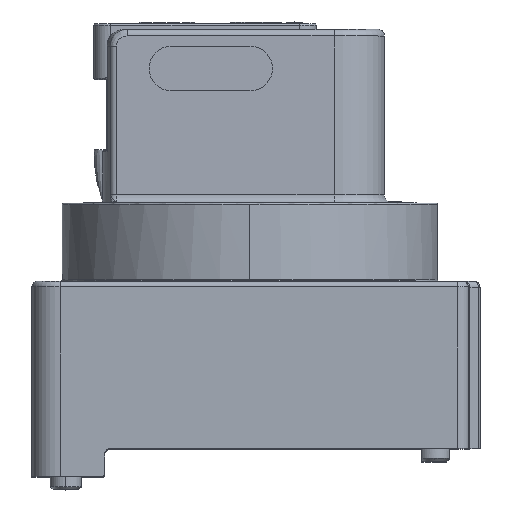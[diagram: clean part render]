
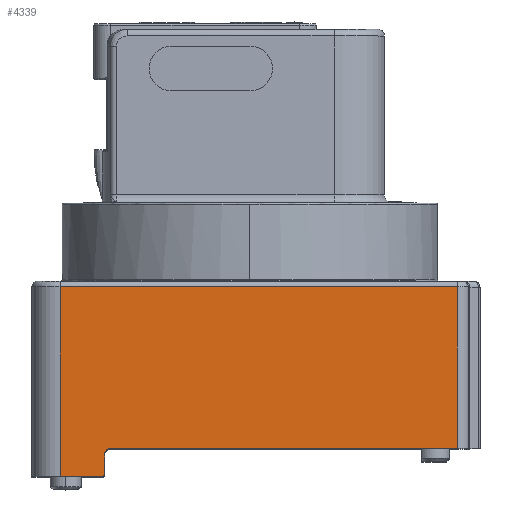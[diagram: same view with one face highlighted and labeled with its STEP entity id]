
A CAD part, top view. The second image highlights one B-rep face of the part: STEP entity #4339.
In plain terms, the highlighted planar face has unit normal (0, 0, 1) as drawn and (-1, 0, 0) by its records, which use the part's own axes.
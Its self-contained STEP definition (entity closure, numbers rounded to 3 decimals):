
#4339=ADVANCED_FACE('',(#7197),#5682,.T.);
#5682=PLANE('',#38763);
#7197=FACE_OUTER_BOUND('',#9292,.T.);
#9292=EDGE_LOOP('',(#23020,#23021,#23022,#23023,#23024,#23025,#23026,#23027));
#12008=LINE('',#59818,#14976);
#12111=LINE('',#60473,#15079);
#12332=LINE('',#64088,#15300);
#12337=LINE('',#64137,#15305);
#12338=LINE('',#64139,#15306);
#12339=LINE('',#64142,#15307);
#14976=VECTOR('',#45704,1.);
#15079=VECTOR('',#46023,1.);
#15300=VECTOR('',#47044,1.);
#15305=VECTOR('',#47063,1.);
#15306=VECTOR('',#47066,1.);
#15307=VECTOR('',#47069,1.);
#23020=ORIENTED_EDGE('',*,*,#33433,.F.);
#23021=ORIENTED_EDGE('',*,*,#33444,.F.);
#23022=ORIENTED_EDGE('',*,*,#32778,.F.);
#23023=ORIENTED_EDGE('',*,*,#33445,.T.);
#23024=ORIENTED_EDGE('',*,*,#33446,.T.);
#23025=ORIENTED_EDGE('',*,*,#33447,.T.);
#23026=ORIENTED_EDGE('',*,*,#32576,.T.);
#23027=ORIENTED_EDGE('',*,*,#33443,.F.);
#28181=VERTEX_POINT('',#59817);
#28182=VERTEX_POINT('',#59819);
#28359=VERTEX_POINT('',#60472);
#28360=VERTEX_POINT('',#60474);
#28851=VERTEX_POINT('',#64083);
#28853=VERTEX_POINT('',#64089);
#28858=VERTEX_POINT('',#64141);
#28859=VERTEX_POINT('',#64143);
#32576=EDGE_CURVE('',#28182,#28181,#12008,.T.);
#32778=EDGE_CURVE('',#28359,#28360,#12111,.T.);
#33433=EDGE_CURVE('',#28851,#28853,#12332,.T.);
#33443=EDGE_CURVE('',#28853,#28181,#12337,.T.);
#33444=EDGE_CURVE('',#28360,#28851,#12338,.T.);
#33445=EDGE_CURVE('',#28359,#28858,#35859,.T.);
#33446=EDGE_CURVE('',#28858,#28859,#12339,.T.);
#33447=EDGE_CURVE('',#28859,#28182,#35860,.T.);
#35859=CIRCLE('',#38761,0.5);
#35860=CIRCLE('',#38762,1.);
#38761=AXIS2_PLACEMENT_3D('',#64140,#47067,#47068);
#38762=AXIS2_PLACEMENT_3D('',#64144,#47070,#47071);
#38763=AXIS2_PLACEMENT_3D('',#64145,#47072,#47073);
#45704=DIRECTION('',(0.,-1.,0.));
#46023=DIRECTION('',(0.,1.,0.));
#47044=DIRECTION('',(0.,-1.,0.));
#47063=DIRECTION('',(0.,0.,-1.));
#47066=DIRECTION('',(0.,0.,1.));
#47067=DIRECTION('',(-1.,0.,0.));
#47068=DIRECTION('',(0.,0.,-1.));
#47069=DIRECTION('',(0.,0.,1.));
#47070=DIRECTION('',(1.,0.,0.));
#47071=DIRECTION('',(0.,1.,0.));
#47072=DIRECTION('',(-1.,0.,0.));
#47073=DIRECTION('',(0.,-1.,0.));
#59817=CARTESIAN_POINT('',(-45.,-36.95,-13.8));
#59818=CARTESIAN_POINT('',(-45.,24.85,-13.8));
#59819=CARTESIAN_POINT('',(-45.,24.85,-13.8));
#60472=CARTESIAN_POINT('',(-45.,26.35,-18.8));
#60473=CARTESIAN_POINT('',(-45.,26.35,-18.8));
#60474=CARTESIAN_POINT('',(-45.,33.85,-18.8));
#64083=CARTESIAN_POINT('',(-45.,33.85,15.));
#64088=CARTESIAN_POINT('',(-45.,33.85,15.));
#64089=CARTESIAN_POINT('',(-45.,-36.95,15.));
#64137=CARTESIAN_POINT('',(-45.,-36.95,15.));
#64139=CARTESIAN_POINT('',(-45.,33.85,-18.8));
#64140=CARTESIAN_POINT('',(-45.,26.35,-18.3));
#64141=CARTESIAN_POINT('',(-45.,25.85,-18.3));
#64142=CARTESIAN_POINT('',(-45.,25.85,-18.3));
#64143=CARTESIAN_POINT('',(-45.,25.85,-14.8));
#64144=CARTESIAN_POINT('',(-45.,24.85,-14.8));
#64145=CARTESIAN_POINT('',(-45.,47.,-16.));
